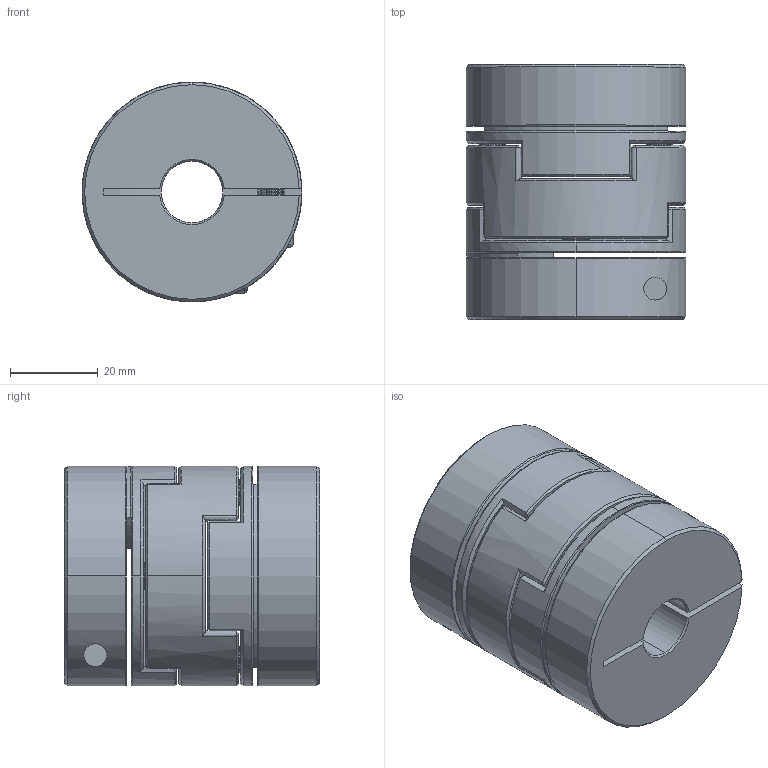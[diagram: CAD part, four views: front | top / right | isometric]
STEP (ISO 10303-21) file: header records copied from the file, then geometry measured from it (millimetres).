
FILE_DESCRIPTION (( 'STEP AP203' ), '1' );
FILE_NAME ('LZ-B-D50L58-14-18.STEP', '2021-10-29T08:06:08', ( '' ), ( '' ), 'SwSTEP 2.0', 'SolidWorks 2018', '' );
FILE_SCHEMA (( 'CONFIG_CONTROL_DESIGN' ));
Length unit declared in the file: millimetre
Products named in the file (1): LZ-B-D50L58-14-18
Bounding box: 50 x 58 x 50 mm (x, y, z)
Volume: 93021.6 mm3; surface area: 30079 mm2
Topology: 1 solids, 27 shells, 560 faces, 1364 edges, 810 vertices
Faces by surface type: cone 252, cylinder 160, plane 90, bspline 54, torus 4
Entity records: 17422 total; most frequent: CARTESIAN_POINT 4342, DIRECTION 2782, ORIENTED_EDGE 2720, EDGE_CURVE 1360, AXIS2_PLACEMENT_3D 1123, VERTEX_POINT 810, CIRCLE 616, EDGE_LOOP 594
